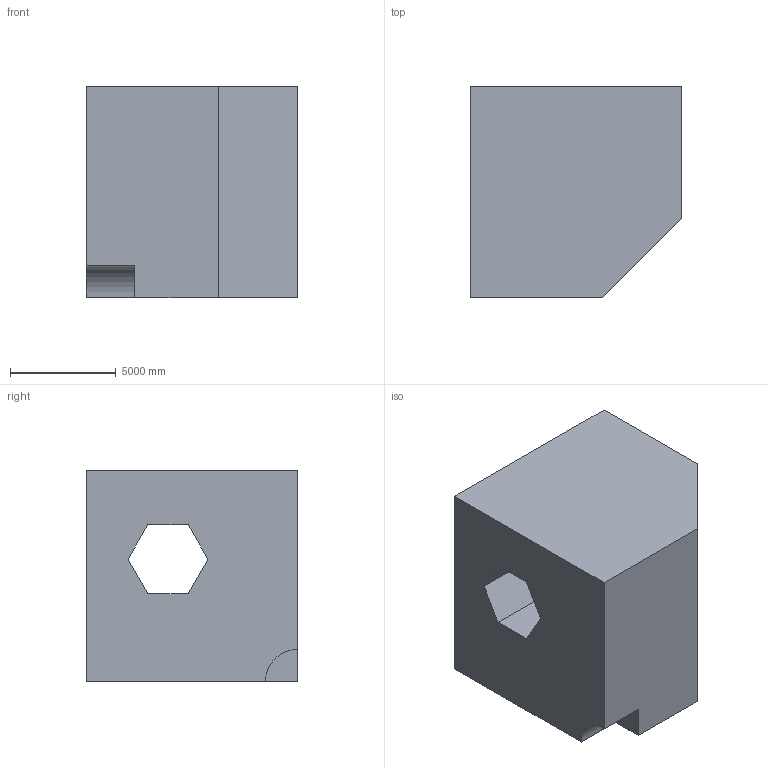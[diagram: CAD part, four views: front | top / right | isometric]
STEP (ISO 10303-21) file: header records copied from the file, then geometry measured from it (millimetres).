
FILE_DESCRIPTION (( 'STEP AP203' ), '1' );
FILE_NAME ('1294.STEP', '2022-08-18T13:36:25', ( 'user' ), ( '' ), 'SwSTEP 2.0', 'SolidWorks 2021', '' );
FILE_SCHEMA (( 'CONFIG_CONTROL_DESIGN' ));
Length unit declared in the file: centimetre
Products named in the file (1): 1294
Bounding box: 10000 x 10000 x 10000 mm (x, y, z)
Volume: 832422787300.5 mm3; surface area: 657386674.7 mm2
Topology: 1 solids, 1 shells, 15 faces, 39 edges, 26 vertices
Faces by surface type: plane 14, cylinder 1
Entity records: 536 total; most frequent: CARTESIAN_POINT 81, ORIENTED_EDGE 78, DIRECTION 73, EDGE_CURVE 39, LINE 37, VECTOR 37, VERTEX_POINT 26, AXIS2_PLACEMENT_3D 18
